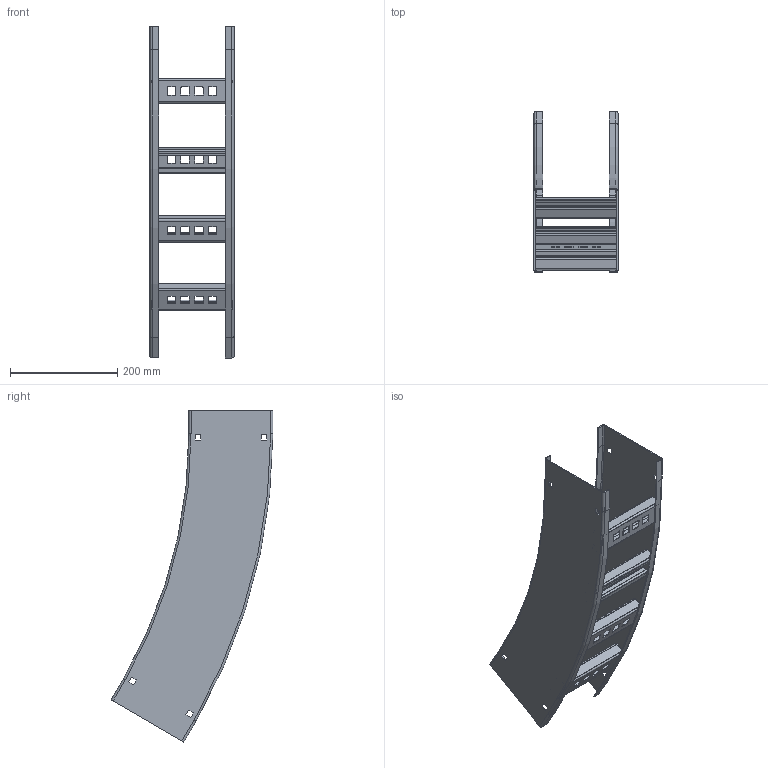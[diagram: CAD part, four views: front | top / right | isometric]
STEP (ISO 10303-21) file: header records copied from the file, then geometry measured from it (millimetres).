
FILE_DESCRIPTION((''),'2;1');
FILE_NAME('AUF606VVI3036_ASM','2010-02-01T',('erouzier'),(''),'PRO/ENGINEER BY PARAMETRIC TECHNOLOGY CORPORATION, 2008510','PRO/ENGINEER BY PARAMETRIC TECHNOLOGY CORPORATION, 2008510','');
FILE_SCHEMA(('CONFIG_CONTROL_DESIGN'));
Length unit declared in the file: inch
Products named in the file (3): CDS001418_6_30_36; CDS002159L6-P; AUF606VVI3036_ASM
Assembly tree (6 placements, depth 2):
  AUF606VVI3036_ASM
    CDS001418_6_30_36  x2
    CDS002159L6-P  x4
Bounding box: 156.51 x 301.25 x 618.4 mm (x, y, z)
Volume: 533017.8 mm3; surface area: 585406.2 mm2
Topology: 6 solids, 6 shells, 364 faces, 992 edges, 640 vertices
Faces by surface type: plane 224, cylinder 132, torus 8
Entity records: 3824 total; most frequent: DIRECTION 656, CARTESIAN_POINT 645, ORIENTED_EDGE 632, EDGE_CURVE 316, VECTOR 234, LINE 234, AXIS2_PLACEMENT_3D 211, VERTEX_POINT 200
